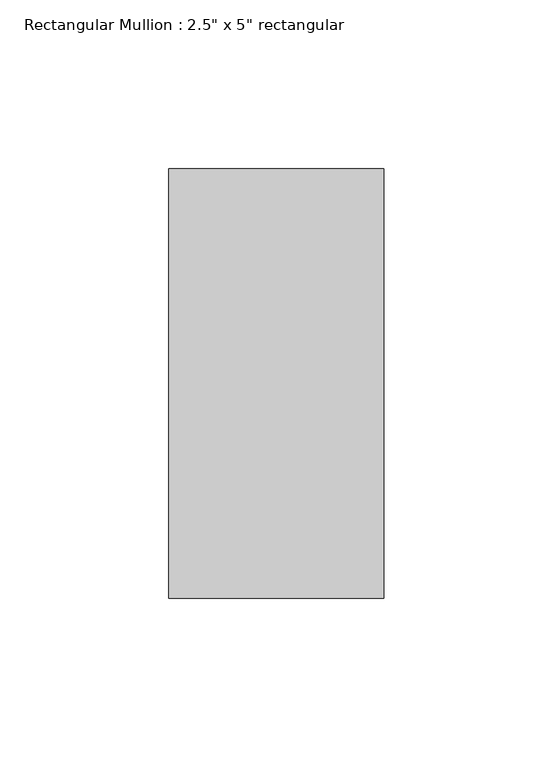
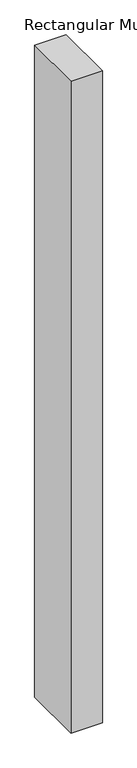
"""IFC4 building model written with IfcOpenShell, lengths in millimetres: member geometry."""

from ifc_helpers import new_model, si_unit, frame, origin, place, context, project, spatial, polyline, outline, extrude, source, transform, mapped, element, save


def member_bbc63846(model_context):
    return source(origin(), model_context, "Body", "SweptSolid", [
        extrude(outline(polyline([(0.0, 63.5), (0.0, -63.5), (-63.5, -63.5), (-63.5, 63.5), (0.0, 63.5)])), frame((0.0, 0.0, -1394.3476312), z_axis=(0.0, 0.0, 1.0), x_axis=(1.0, 0.0, 0.0)), (0.0, 0.0, 1.0), 1394.3476312),
    ])


if __name__ == "__main__":
    model = new_model("IFC4")
    model_context = context("Model", 3, world=origin())
    ifc_project = project(units=[si_unit("LENGTHUNIT", "METRE", prefix="MILLI")], contexts=[model_context])
    site = spatial("IfcSite", under=ifc_project)
    building = spatial("IfcBuilding", under=site)
    placement = place(None, origin())
    member_shape = member_bbc63846(model_context)
    element("IfcMember", 1, ObjectType="Rectangular Mullion : 2.5\" x 5\" rectangular", at=placement, inside=building, context=model_context, shape_type="MappedRepresentation", body=[
        mapped(member_shape, transform((0.0, 0.0, 0.0), x_axis=(1.0, 0.0, 0.0), y_axis=(0.0, 1.0, 0.0), z_axis=(0.0, 0.0, 1.0))),
    ])
    save(model, "model.ifc")
